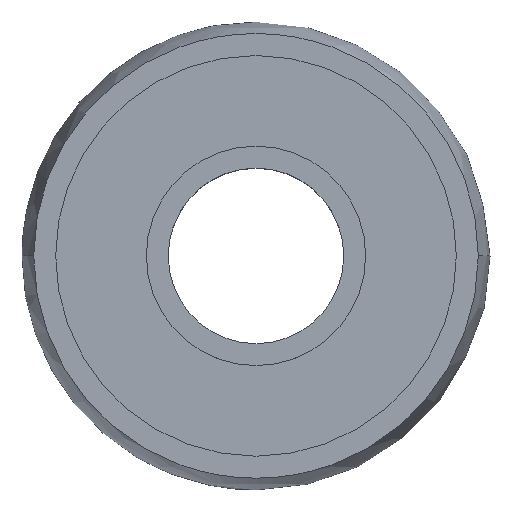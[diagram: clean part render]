
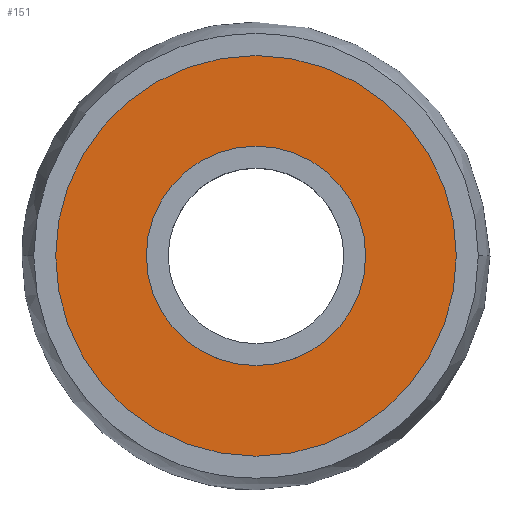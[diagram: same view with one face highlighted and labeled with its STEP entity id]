
A CAD part, top view. The second image highlights one B-rep face of the part: STEP entity #151.
In plain terms, the highlighted planar face has unit normal (0, 0, 1).
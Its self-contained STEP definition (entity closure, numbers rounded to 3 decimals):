
#29 = ORIENTED_EDGE ( 'NONE', *, *, #192, .F. ) ;
#151 = ADVANCED_FACE ( 'NONE', ( #465, #464 ), #455, .F. ) ;
#152 = ORIENTED_EDGE ( 'NONE', *, *, #178, .F. ) ;
#153 = EDGE_LOOP ( 'NONE', ( #154, #158 ) ) ;
#154 = ORIENTED_EDGE ( 'NONE', *, *, #195, .T. ) ;
#158 = ORIENTED_EDGE ( 'NONE', *, *, #247, .T. ) ;
#175 = VERTEX_POINT ( 'NONE', #485 ) ;
#176 = VERTEX_POINT ( 'NONE', #476 ) ;
#178 = EDGE_CURVE ( 'NONE', #175, #176, #477, .T. ) ;
#192 = EDGE_CURVE ( 'NONE', #176, #175, #316, .T. ) ;
#195 = EDGE_CURVE ( 'NONE', #233, #246, #268, .T. ) ;
#196 = EDGE_LOOP ( 'NONE', ( #152, #29 ) ) ;
#233 = VERTEX_POINT ( 'NONE', #430 ) ;
#246 = VERTEX_POINT ( 'NONE', #399 ) ;
#247 = EDGE_CURVE ( 'NONE', #246, #233, #400, .T. ) ;
#268 = CIRCLE ( 'NONE', #353, 13.699 ) ;
#283 = DIRECTION ( 'NONE',  ( 1., 0., 0. ) ) ;
#284 = DIRECTION ( 'NONE',  ( 0., 0., 1. ) ) ;
#287 = CARTESIAN_POINT ( 'NONE',  ( 0., 0., 4.75 ) ) ;
#313 = DIRECTION ( 'NONE',  ( 1., 0., 0. ) ) ;
#314 = DIRECTION ( 'NONE',  ( 0., 0., 1. ) ) ;
#315 = CARTESIAN_POINT ( 'NONE',  ( 0., 0., 4.75 ) ) ;
#316 = CIRCLE ( 'NONE', #321, 7.5 ) ;
#320 = CARTESIAN_POINT ( 'NONE',  ( 0., 0., 4.75 ) ) ;
#321 = AXIS2_PLACEMENT_3D ( 'NONE', #320, #314, #313 ) ;
#351 = DIRECTION ( 'NONE',  ( 1., 0., 0. ) ) ;
#352 = DIRECTION ( 'NONE',  ( 0., 0., 1. ) ) ;
#353 = AXIS2_PLACEMENT_3D ( 'NONE', #315, #352, #351 ) ;
#389 = DIRECTION ( 'NONE',  ( 1., 0., 0. ) ) ;
#390 = DIRECTION ( 'NONE',  ( 0., 0., 1. ) ) ;
#397 = CARTESIAN_POINT ( 'NONE',  ( 0., 0., 4.75 ) ) ;
#399 = CARTESIAN_POINT ( 'NONE',  ( -13.699, 0., 4.75 ) ) ;
#400 = CIRCLE ( 'NONE', #423, 13.699 ) ;
#423 = AXIS2_PLACEMENT_3D ( 'NONE', #397, #390, #389 ) ;
#430 = CARTESIAN_POINT ( 'NONE',  ( 13.699, 0., 4.75 ) ) ;
#449 = DIRECTION ( 'NONE',  ( -1., 0., 0. ) ) ;
#455 = PLANE ( 'NONE',  #463 ) ;
#458 = DIRECTION ( 'NONE',  ( 0., 0., -1. ) ) ;
#459 = CARTESIAN_POINT ( 'NONE',  ( -13.699, 0., 4.75 ) ) ;
#463 = AXIS2_PLACEMENT_3D ( 'NONE', #459, #458, #449 ) ;
#464 = FACE_OUTER_BOUND ( 'NONE', #153, .T. ) ;
#465 = FACE_BOUND ( 'NONE', #196, .T. ) ;
#472 = AXIS2_PLACEMENT_3D ( 'NONE', #287, #284, #283 ) ;
#476 = CARTESIAN_POINT ( 'NONE',  ( -7.5, 0., 4.75 ) ) ;
#477 = CIRCLE ( 'NONE', #472, 7.5 ) ;
#485 = CARTESIAN_POINT ( 'NONE',  ( 7.5, 0., 4.75 ) ) ;
